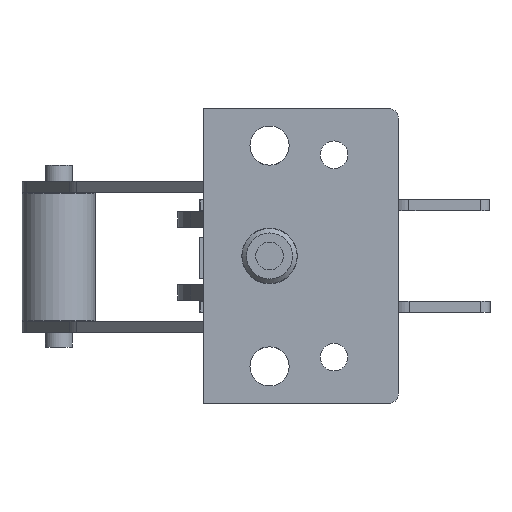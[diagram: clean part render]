
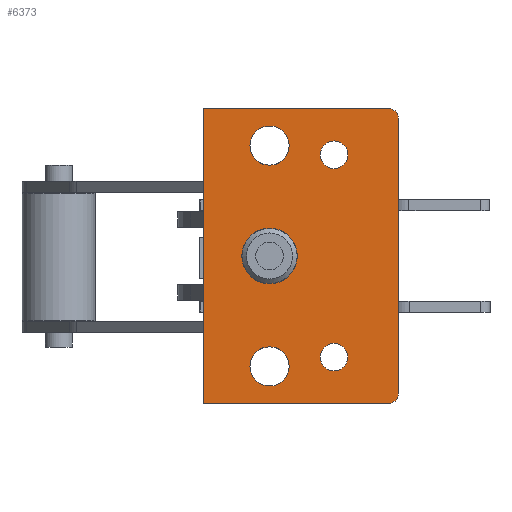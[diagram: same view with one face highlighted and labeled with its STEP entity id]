
A CAD part, left-side view. The second image highlights one B-rep face of the part: STEP entity #6373.
In plain terms, the highlighted planar face has unit normal (-1, 0, 0).
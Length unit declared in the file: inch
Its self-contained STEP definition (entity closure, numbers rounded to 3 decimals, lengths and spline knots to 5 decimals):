
#6261=CARTESIAN_POINT('',(17.52291,10.38556,0.91622));
#6262=DIRECTION('',(1.0,0.0,0.0));
#6263=DIRECTION('',(0.0,0.0,-1.0));
#6264=AXIS2_PLACEMENT_3D('',#6261,#6262,#6263);
#6265=PLANE('',#6264);
#6266=CARTESIAN_POINT('',(17.52291,11.03827,-0.08378));
#6267=VERTEX_POINT('',#6266);
#6268=CARTESIAN_POINT('',(17.52291,11.03827,1.91622));
#6269=VERTEX_POINT('',#6268);
#6270=CARTESIAN_POINT('',(17.52291,11.03827,-0.08378));
#6271=DIRECTION('',(0.0,0.0,1.0));
#6272=VECTOR('',#6271,2.);
#6273=LINE('',#6270,#6272);
#6274=EDGE_CURVE('',#6267,#6269,#6273,.T.);
#6275=ORIENTED_EDGE('',*,*,#6274,.F.);
#6276=CARTESIAN_POINT('',(17.52291,9.78021,-0.08378));
#6277=VERTEX_POINT('',#6276);
#6278=CARTESIAN_POINT('',(17.52291,9.78021,-0.08378));
#6279=DIRECTION('',(0.0,1.0,0.0));
#6280=VECTOR('',#6279,1.25807);
#6281=LINE('',#6278,#6280);
#6282=EDGE_CURVE('',#6277,#6267,#6281,.T.);
#6283=ORIENTED_EDGE('',*,*,#6282,.F.);
#6284=CARTESIAN_POINT('',(17.52291,9.71771,-0.02128));
#6285=VERTEX_POINT('',#6284);
#6286=CARTESIAN_POINT('',(17.52291,9.78021,-0.02128));
#6287=DIRECTION('',(1.0,0.,0.));
#6288=DIRECTION('',(0.,-0.707,-0.707));
#6289=AXIS2_PLACEMENT_3D('',#6286,#6287,#6288);
#6290=CIRCLE('',#6289,0.0625);
#6291=EDGE_CURVE('',#6285,#6277,#6290,.T.);
#6292=ORIENTED_EDGE('',*,*,#6291,.F.);
#6293=CARTESIAN_POINT('',(17.52291,9.71771,1.85372));
#6294=VERTEX_POINT('',#6293);
#6295=CARTESIAN_POINT('',(17.52291,9.71771,1.85372));
#6296=DIRECTION('',(0.0,0.0,-1.0));
#6297=VECTOR('',#6296,1.875);
#6298=LINE('',#6295,#6297);
#6299=EDGE_CURVE('',#6294,#6285,#6298,.T.);
#6300=ORIENTED_EDGE('',*,*,#6299,.F.);
#6301=CARTESIAN_POINT('',(17.52291,9.78021,1.91622));
#6302=VERTEX_POINT('',#6301);
#6303=CARTESIAN_POINT('',(17.52291,9.78021,1.85372));
#6304=DIRECTION('',(1.0,0.,0.));
#6305=DIRECTION('',(0.,-0.707,0.707));
#6306=AXIS2_PLACEMENT_3D('',#6303,#6304,#6305);
#6307=CIRCLE('',#6306,0.0625);
#6308=EDGE_CURVE('',#6302,#6294,#6307,.T.);
#6309=ORIENTED_EDGE('',*,*,#6308,.F.);
#6310=CARTESIAN_POINT('',(17.52291,11.03827,1.91622));
#6311=DIRECTION('',(0.0,-1.0,0.0));
#6312=VECTOR('',#6311,1.25807);
#6313=LINE('',#6310,#6312);
#6314=EDGE_CURVE('',#6269,#6302,#6313,.T.);
#6315=ORIENTED_EDGE('',*,*,#6314,.F.);
#6316=EDGE_LOOP('',(#6275,#6283,#6292,#6300,#6309,#6315));
#6317=FACE_OUTER_BOUND('',#6316,.T.);
#6318=CARTESIAN_POINT('',(17.52291,10.15471,1.69772));
#6319=VERTEX_POINT('',#6318);
#6320=CARTESIAN_POINT('',(17.52291,10.15471,1.60372));
#6321=DIRECTION('',(-1.0,0.0,0.0));
#6322=DIRECTION('',(0.0,-1.0,0.0));
#6323=AXIS2_PLACEMENT_3D('',#6320,#6321,#6322);
#6324=CIRCLE('',#6323,0.094);
#6325=EDGE_CURVE('',#6319,#6319,#6324,.T.);
#6326=ORIENTED_EDGE('',*,*,#6325,.F.);
#6327=EDGE_LOOP('',(#6326));
#6328=FACE_BOUND('',#6327,.T.);
#6329=CARTESIAN_POINT('',(17.52291,10.59271,1.79922));
#6330=VERTEX_POINT('',#6329);
#6331=CARTESIAN_POINT('',(17.52291,10.59271,1.66622));
#6332=DIRECTION('',(-1.0,0.0,0.0));
#6333=DIRECTION('',(0.0,-1.0,0.0));
#6334=AXIS2_PLACEMENT_3D('',#6331,#6332,#6333);
#6335=CIRCLE('',#6334,0.133);
#6336=EDGE_CURVE('',#6330,#6330,#6335,.T.);
#6337=ORIENTED_EDGE('',*,*,#6336,.F.);
#6338=EDGE_LOOP('',(#6337));
#6339=FACE_BOUND('',#6338,.T.);
#6340=CARTESIAN_POINT('',(17.52291,10.59271,1.10472));
#6341=VERTEX_POINT('',#6340);
#6342=CARTESIAN_POINT('',(17.52291,10.59271,0.91622));
#6343=DIRECTION('',(-1.0,0.0,0.0));
#6344=DIRECTION('',(0.0,-1.0,0.0));
#6345=AXIS2_PLACEMENT_3D('',#6342,#6343,#6344);
#6346=CIRCLE('',#6345,0.1885);
#6347=EDGE_CURVE('',#6341,#6341,#6346,.T.);
#6348=ORIENTED_EDGE('',*,*,#6347,.F.);
#6349=EDGE_LOOP('',(#6348));
#6350=FACE_BOUND('',#6349,.T.);
#6351=CARTESIAN_POINT('',(17.52291,10.59271,0.29922));
#6352=VERTEX_POINT('',#6351);
#6353=CARTESIAN_POINT('',(17.52291,10.59271,0.16622));
#6354=DIRECTION('',(-1.0,0.0,0.0));
#6355=DIRECTION('',(0.0,-1.0,0.0));
#6356=AXIS2_PLACEMENT_3D('',#6353,#6354,#6355);
#6357=CIRCLE('',#6356,0.133);
#6358=EDGE_CURVE('',#6352,#6352,#6357,.T.);
#6359=ORIENTED_EDGE('',*,*,#6358,.F.);
#6360=EDGE_LOOP('',(#6359));
#6361=FACE_BOUND('',#6360,.T.);
#6362=CARTESIAN_POINT('',(17.52291,10.15471,0.32247));
#6363=VERTEX_POINT('',#6362);
#6364=CARTESIAN_POINT('',(17.52291,10.15471,0.22872));
#6365=DIRECTION('',(-1.0,0.0,0.0));
#6366=DIRECTION('',(0.0,-1.0,0.0));
#6367=AXIS2_PLACEMENT_3D('',#6364,#6365,#6366);
#6368=CIRCLE('',#6367,0.09375);
#6369=EDGE_CURVE('',#6363,#6363,#6368,.T.);
#6370=ORIENTED_EDGE('',*,*,#6369,.F.);
#6371=EDGE_LOOP('',(#6370));
#6372=FACE_BOUND('',#6371,.T.);
#6373=ADVANCED_FACE('',(#6317,#6328,#6339,#6350,#6361,#6372),#6265,.F.);
